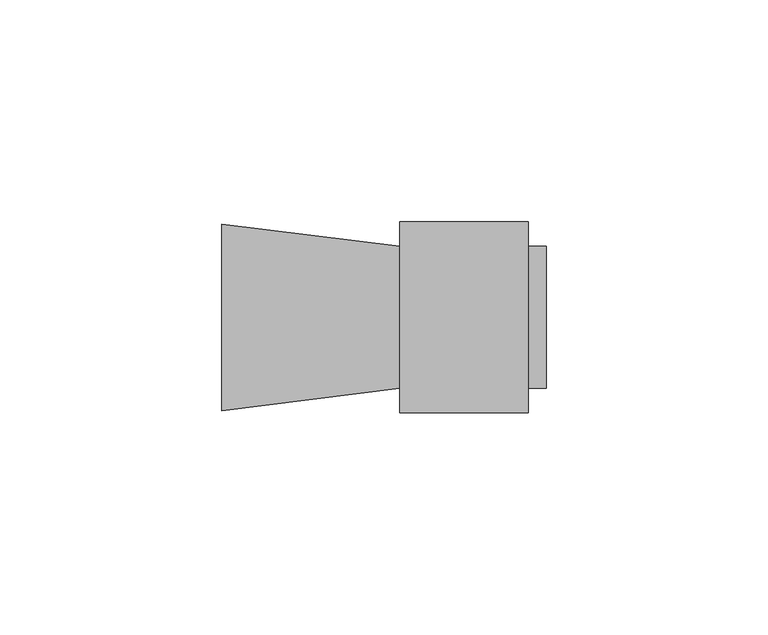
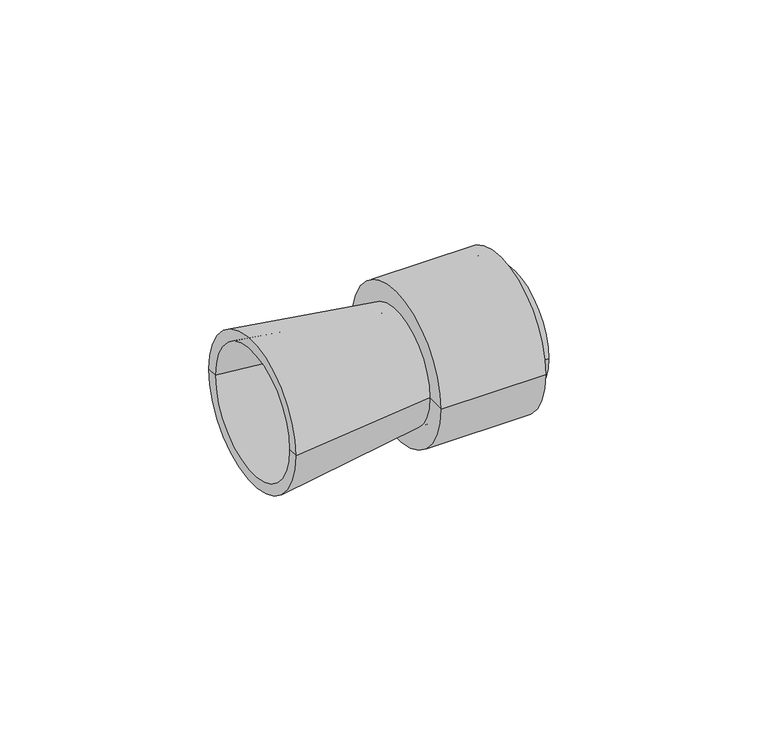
"""IFC4 building model written with IfcOpenShell, lengths in millimetres: cable carrier fitting geometry, КНС_ПереходникАрмированнаяТрубаЖесткаяТруба_IP67_DKC : Коробка."""

from ifc_helpers import new_model, si_unit, frame, origin, place, context, project, spatial, polyline, circle_curve, source, transform, mapped, element, save
from ifc_brep_helpers import plane_surface, cylinder_surface, revolved_surface, advanced_brep


def cable_carrier_fitting_b4176504(model_context):
    return source(origin(), model_context, "Body", "AdvancedBrep", [
        advanced_brep(
        [(-40.0, -21.0, 0.0), (-40.0, 21.0, 0.0), (0.0, 16.0, 0.0), (0.0, -16.0, 0.0), (-40.0, -17.9766533, 0.0), (-40.0, 17.9766533, 0.0), (0.0, -12.9766533, 0.0), (0.0, 12.9766533, 0.0)],
        [
            (0, 1, circle_curve(frame((-40.0, 0.0, 0.0), z_axis=(1.0, 0.0, 0.0), x_axis=(0.0, 1.0, 0.0)), 21.0)),
            (1, 2),
            (2, 3, circle_curve(frame((0.0, 0.0, 0.0), z_axis=(-1.0, 0.0, 0.0), x_axis=(0.0, 1.0, 0.0)), 16.0)),
            (3, 0),
            (1, 0, circle_curve(frame((-40.0, 0.0, 0.0), z_axis=(1.0, 0.0, 0.0), x_axis=(0.0, 1.0, 0.0)), 21.0)),
            (3, 2, circle_curve(frame((0.0, 0.0, 0.0), z_axis=(-1.0, 0.0, 0.0), x_axis=(0.0, 1.0, 0.0)), 16.0)),
            (4, 5, circle_curve(frame((-40.0, 0.0, 0.0), z_axis=(1.0, 0.0, 0.0), x_axis=(0.0, 1.0, 0.0)), 17.9766533)),
            (5, 1),
            (0, 4),
            (5, 4, circle_curve(frame((-40.0, 0.0, 0.0), z_axis=(1.0, 0.0, 0.0), x_axis=(0.0, 1.0, 0.0)), 17.9766533)),
            (6, 7, circle_curve(frame((0.0, 0.0, 0.0), z_axis=(1.0, 0.0, 0.0), x_axis=(0.0, 1.0, 0.0)), 12.9766533)),
            (7, 5),
            (4, 6),
            (7, 6, circle_curve(frame((0.0, 0.0, 0.0), z_axis=(1.0, 0.0, 0.0), x_axis=(0.0, 1.0, 0.0)), 12.9766533)),
            (2, 7),
            (6, 3),
        ],
        [
            revolved_surface(polyline([(0.0, 16.0, 0.0), (-40.0, 21.0, 0.0)]), (1524.0, 0.0, 0.0), (-1.0, 0.0, 0.0)),
            plane_surface(frame((-40.0, 0.0, 0.0), z_axis=(-1.0, 0.0, 0.0), x_axis=(0.0, 1.0, 0.0))),
            revolved_surface(polyline([(-40.0, 17.9766533, 0.0), (0.0, 12.9766533, 0.0)]), (1524.0, 0.0, 0.0), (-1.0, 0.0, 0.0)),
            plane_surface(frame((0.0, 0.0, 0.0), z_axis=(1.0, 0.0, 0.0), x_axis=(0.0, 1.0, 0.0))),
        ],
        [
            (0, [[1, 2, 3, 4]]),
            (0, [[5, -4, 6, -2]]),
            (1, [[7, 8, -1, 9]]),
            (1, [[10, -9, -5, -8]]),
            (2, [[11, 12, -7, 13]]),
            (2, [[14, -13, -10, -12]]),
            (3, [[-3, 15, -11, 16]]),
            (3, [[-6, -16, -14, -15]]),
        ],
    ),
        advanced_brep(
        [(3.0, -13.5, 0.0), (3.0, 13.5, 0.0), (3.0, 0.0, 0.0), (33.0, -13.5, 0.0), (33.0, 13.5, 0.0), (33.0, -16.0, 0.0), (33.0, 16.0, 0.0), (3.0, -16.0, 0.0), (3.0, 16.0, 0.0), (3.0, -18.7376891, 0.0), (3.0, 18.7376891, 0.0), (29.0, -18.7376891, 0.0), (29.0, 18.7376891, 0.0), (29.0, -21.5, 0.0), (29.0, 21.5, 0.0), (0.0, -21.5, 0.0), (0.0, 21.5, 0.0), (0.0, 0.0, 0.0)],
        [
            (0, 1, circle_curve(frame((3.0, 0.0, 0.0), z_axis=(1.0, 0.0, 0.0), x_axis=(0.0, 1.0, 0.0)), 13.5)),
            (1, 2),
            (2, 0),
            (1, 0, circle_curve(frame((3.0, 0.0, 0.0), z_axis=(1.0, 0.0, 0.0), x_axis=(0.0, 1.0, 0.0)), 13.5)),
            (3, 4, circle_curve(frame((33.0, 0.0, 0.0), z_axis=(1.0, 0.0, 0.0), x_axis=(0.0, 1.0, 0.0)), 13.5)),
            (4, 1),
            (0, 3),
            (4, 3, circle_curve(frame((33.0, 0.0, 0.0), z_axis=(1.0, 0.0, 0.0), x_axis=(0.0, 1.0, 0.0)), 13.5)),
            (5, 6, circle_curve(frame((33.0, 0.0, 0.0), z_axis=(1.0, 0.0, 0.0), x_axis=(0.0, 1.0, 0.0)), 16.0)),
            (6, 4),
            (3, 5),
            (6, 5, circle_curve(frame((33.0, 0.0, 0.0), z_axis=(1.0, 0.0, 0.0), x_axis=(0.0, 1.0, 0.0)), 16.0)),
            (7, 8, circle_curve(frame((3.0, 0.0, 0.0), z_axis=(1.0, 0.0, 0.0), x_axis=(0.0, 1.0, 0.0)), 16.0)),
            (8, 6),
            (5, 7),
            (8, 7, circle_curve(frame((3.0, 0.0, 0.0), z_axis=(1.0, 0.0, 0.0), x_axis=(0.0, 1.0, 0.0)), 16.0)),
            (9, 10, circle_curve(frame((3.0, 0.0, 0.0), z_axis=(1.0, 0.0, 0.0), x_axis=(0.0, 1.0, 0.0)), 18.7376891)),
            (10, 8),
            (7, 9),
            (10, 9, circle_curve(frame((3.0, 0.0, 0.0), z_axis=(1.0, 0.0, 0.0), x_axis=(0.0, 1.0, 0.0)), 18.7376891)),
            (11, 12, circle_curve(frame((29.0, 0.0, 0.0), z_axis=(1.0, 0.0, 0.0), x_axis=(0.0, 1.0, 0.0)), 18.7376891)),
            (12, 10),
            (9, 11),
            (12, 11, circle_curve(frame((29.0, 0.0, 0.0), z_axis=(1.0, 0.0, 0.0), x_axis=(0.0, 1.0, 0.0)), 18.7376891)),
            (13, 14, circle_curve(frame((29.0, 0.0, 0.0), z_axis=(1.0, 0.0, 0.0), x_axis=(0.0, 1.0, 0.0)), 21.5)),
            (14, 12),
            (11, 13),
            (14, 13, circle_curve(frame((29.0, 0.0, 0.0), z_axis=(1.0, 0.0, 0.0), x_axis=(0.0, 1.0, 0.0)), 21.5)),
            (15, 16, circle_curve(frame((0.0, 0.0, 0.0), z_axis=(1.0, 0.0, 0.0), x_axis=(0.0, 1.0, 0.0)), 21.5)),
            (16, 14),
            (13, 15),
            (16, 15, circle_curve(frame((0.0, 0.0, 0.0), z_axis=(1.0, 0.0, 0.0), x_axis=(0.0, 1.0, 0.0)), 21.5)),
            (17, 16),
            (15, 17),
        ],
        [
            plane_surface(frame((3.0, 0.0, 0.0), z_axis=(1.0, 0.0, 0.0), x_axis=(0.0, 1.0, 0.0))),
            revolved_surface(polyline([(3.0, 13.5, 0.0), (33.0, 13.5, 0.0)]), (1528.5, 0.0, 0.0), (-1.0, 0.0, 0.0)),
            plane_surface(frame((33.0, 0.0, 0.0), z_axis=(1.0, 0.0, 0.0), x_axis=(0.0, 1.0, 0.0))),
            cylinder_surface(frame((1528.5, 0.0, 0.0), z_axis=(-1.0, 0.0, 0.0), x_axis=(0.0, 1.0, 0.0)), 16.0),
            revolved_surface(polyline([(3.0, 18.7376891, 0.0), (29.0, 18.7376891, 0.0)]), (1528.5, 0.0, 0.0), (-1.0, 0.0, 0.0)),
            plane_surface(frame((29.0, 0.0, 0.0), z_axis=(1.0, 0.0, 0.0), x_axis=(0.0, 1.0, 0.0))),
            cylinder_surface(frame((1528.5, 0.0, 0.0), z_axis=(-1.0, 0.0, 0.0), x_axis=(0.0, 1.0, 0.0)), 21.5),
            plane_surface(frame((0.0, 0.0, 0.0), z_axis=(-1.0, 0.0, 0.0), x_axis=(0.0, 1.0, 0.0))),
        ],
        [
            (0, [[1, 2, 3]]),
            (0, [[4, -3, -2]]),
            (1, [[5, 6, -1, 7]]),
            (1, [[8, -7, -4, -6]]),
            (2, [[9, 10, -5, 11]]),
            (2, [[12, -11, -8, -10]]),
            (3, [[13, 14, -9, 15]]),
            (3, [[16, -15, -12, -14]]),
            (0, [[17, 18, -13, 19]]),
            (0, [[20, -19, -16, -18]]),
            (4, [[21, 22, -17, 23]]),
            (4, [[24, -23, -20, -22]]),
            (5, [[25, 26, -21, 27]]),
            (5, [[28, -27, -24, -26]]),
            (6, [[29, 30, -25, 31]]),
            (6, [[32, -31, -28, -30]]),
            (7, [[33, -29, 34]]),
            (7, [[-34, -32, -33]]),
        ],
    ),
    ])


if __name__ == "__main__":
    model = new_model("IFC4")
    model_context = context("Model", 3, world=origin())
    ifc_project = project(units=[si_unit("LENGTHUNIT", "METRE", prefix="MILLI")], contexts=[model_context])
    site = spatial("IfcSite", under=ifc_project)
    building = spatial("IfcBuilding", under=site)
    placement = place(None, origin())
    cable_carrier_fitting_shape = cable_carrier_fitting_b4176504(model_context)
    element("IfcCableCarrierFitting", 1, ObjectType="КНС_ПереходникАрмированнаяТрубаЖесткаяТруба_IP67_DKC : Коробка", at=placement, inside=building, context=model_context, shape_type="MappedRepresentation", body=[
        mapped(cable_carrier_fitting_shape, transform((0.0, 0.0, 0.0), x_axis=(1.0, 0.0, 0.0), y_axis=(0.0, 1.0, 0.0), z_axis=(0.0, 0.0, 1.0))),
    ])
    save(model, "model.ifc")
